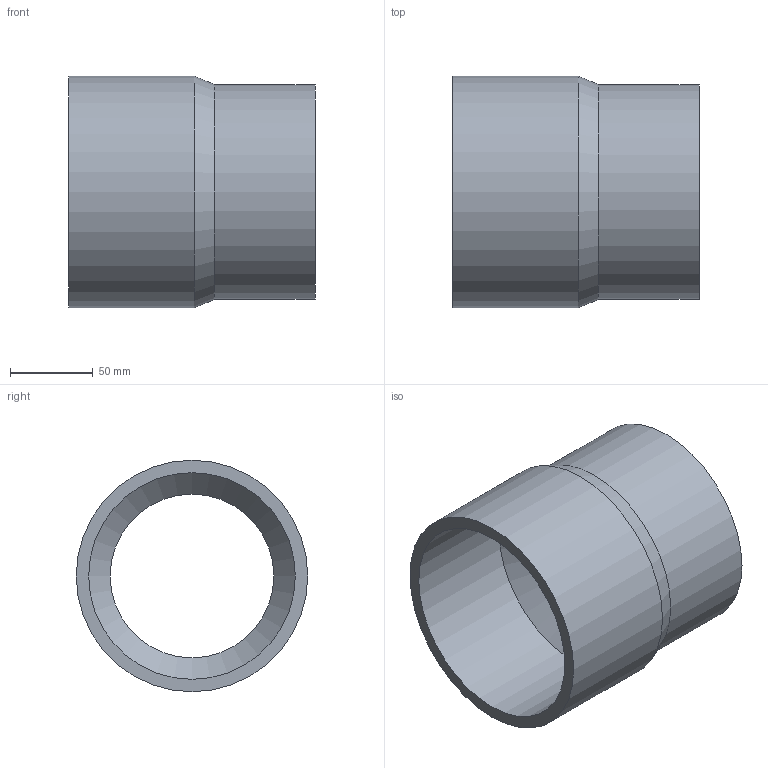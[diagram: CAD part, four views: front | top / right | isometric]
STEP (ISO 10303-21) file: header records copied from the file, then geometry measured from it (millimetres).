
FILE_DESCRIPTION(/* description */ ('PLASSON REDUCING SOCKET M.F.140(125)110 CEMENTED'),/* implementation_level */ '2;1');
FILE_NAME(/* name */ 'C:\Dropbox\KIMPROJECTS-Inventor\99-16-3568-Processing\PVC Catalog 2017\050200\050200140110.ipt.stp',/* time_stamp */ '2017-12-07T15:53:00+02:00',/* author */ ('KIM'),/* organization */ (''),/* preprocessor_version */ 'ST-DEVELOPER v15.6',/* originating_system */ 'Autodesk Inventor 2015',/* authorisation */ '');
FILE_SCHEMA (('AUTOMOTIVE_DESIGN { 1 0 10303 214 3 1 1 }'));
Length unit declared in the file: millimetre
Products named in the file (1): 050200140110
Bounding box: 149 x 140 x 140 mm (x, y, z)
Volume: 550143.7 mm3; surface area: 129061.6 mm2
Topology: 1 solids, 1 shells, 10 faces, 17 edges, 10 vertices
Faces by surface type: cylinder 5, plane 3, cone 2
Full cylindrical faces by diameter (mm): 99 x1, 110 x1, 125 x1, 130 x1, 140 x1
Entity records: 232 total; most frequent: DIRECTION 42, CARTESIAN_POINT 31, AXIS2_PLACEMENT_3D 21, EDGE_LOOP 20, ORIENTED_EDGE 20, FACE_BOUND 10, FACE_OUTER_BOUND 10, CIRCLE 10
